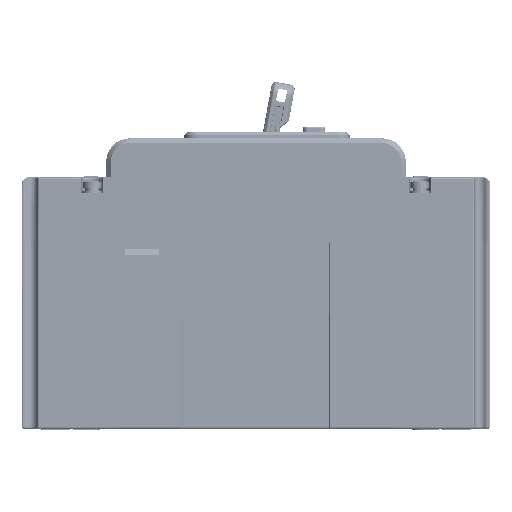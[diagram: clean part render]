
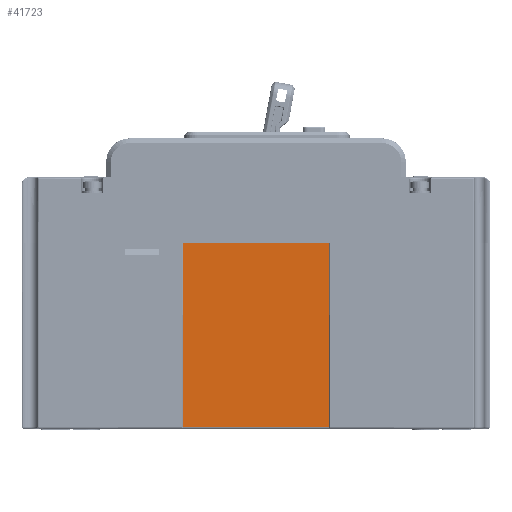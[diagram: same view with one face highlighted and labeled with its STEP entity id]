
A CAD part, left-side view. The second image highlights one B-rep face of the part: STEP entity #41723.
In plain terms, the highlighted planar face has unit normal (-1, 0, 0).
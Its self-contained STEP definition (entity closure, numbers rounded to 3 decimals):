
#666=DIRECTION('',(0.,1.,0.));
#667=VECTOR('',#666,47.);
#668=CARTESIAN_POINT('',(0.5,51.5,60.));
#669=LINE('',#668,#667);
#14955=DIRECTION('',(0.,0.,-1.));
#14956=VECTOR('',#14955,59.);
#14957=CARTESIAN_POINT('',(0.5,98.5,60.));
#14958=LINE('',#14957,#14956);
#15021=DIRECTION('',(0.,-1.,0.));
#15022=VECTOR('',#15021,47.);
#15023=CARTESIAN_POINT('',(0.5,98.5,1.));
#15024=LINE('',#15023,#15022);
#15025=DIRECTION('',(0.,0.,-1.));
#15026=VECTOR('',#15025,59.);
#15027=CARTESIAN_POINT('',(0.5,51.5,60.));
#15028=LINE('',#15027,#15026);
#19805=CARTESIAN_POINT('',(0.5,51.5,60.));
#19806=CARTESIAN_POINT('',(0.5,98.5,60.));
#19807=VERTEX_POINT('',#19805);
#19808=VERTEX_POINT('',#19806);
#21543=CARTESIAN_POINT('',(0.5,98.5,1.));
#21544=VERTEX_POINT('',#21543);
#21549=CARTESIAN_POINT('',(0.5,51.5,1.));
#21550=VERTEX_POINT('',#21549);
#41711=CARTESIAN_POINT('',(0.5,51.5,60.));
#41712=DIRECTION('',(1.,0.,0.));
#41713=DIRECTION('',(0.,1.,0.));
#41714=AXIS2_PLACEMENT_3D('',#41711,#41712,#41713);
#41715=PLANE('',#41714);
#41716=ORIENTED_EDGE('',*,*,#41702,.F.);
#41717=ORIENTED_EDGE('',*,*,#41678,.F.);
#41718=ORIENTED_EDGE('',*,*,#23371,.F.);
#41720=ORIENTED_EDGE('',*,*,#41719,.T.);
#41721=EDGE_LOOP('',(#41716,#41717,#41718,#41720));
#41722=FACE_OUTER_BOUND('',#41721,.F.);
#41723=ADVANCED_FACE('',(#41722),#41715,.F.);
#23371=EDGE_CURVE('',#19807,#19808,#669,.T.);
#41678=EDGE_CURVE('',#19808,#21544,#14958,.T.);
#41702=EDGE_CURVE('',#21544,#21550,#15024,.T.);
#41719=EDGE_CURVE('',#19807,#21550,#15028,.T.);
